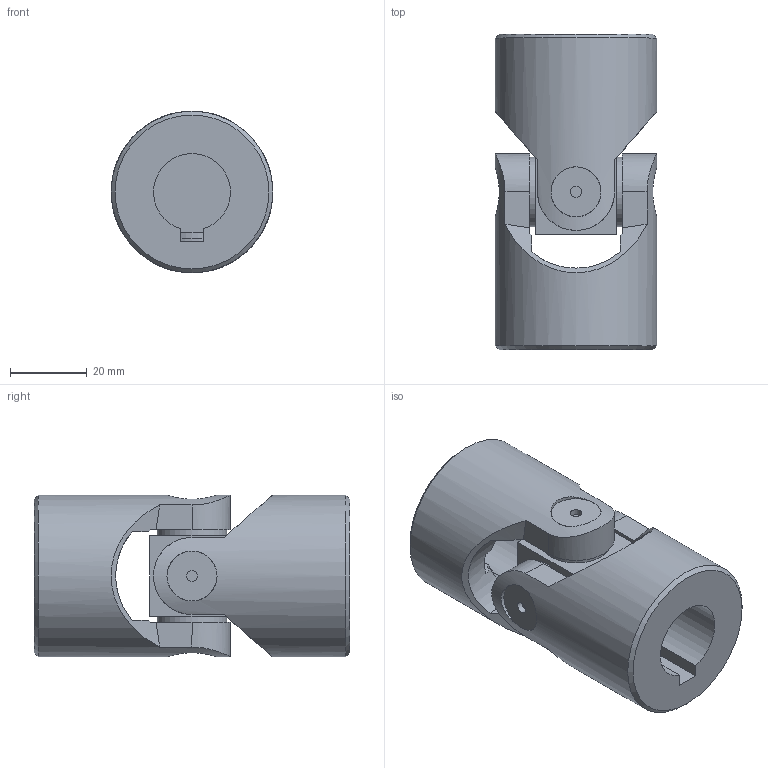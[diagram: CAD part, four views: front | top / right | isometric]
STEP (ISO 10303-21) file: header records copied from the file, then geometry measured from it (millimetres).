
FILE_DESCRIPTION(/* description */ ('EXTENSIBLE TRANSIMISSIONS Series G DIN 808 -2-'),/* implementation_level */ '2;1');
FILE_NAME(/* name */ '\\SRV2016\societa\Stefano\Disegni 3D\Dis. Clienti\0000Catalogo 3D\01Singoli G-GB\SG0S202C.stp',/* time_stamp */ '2021-11-08T17:26:55+01:00',/* author */ ('acquisti'),/* organization */ ('MARIOFERRI'),/* preprocessor_version */ 'ST-DEVELOPER v15.6',/* originating_system */ 'Autodesk Inventor 2015',/* authorisation */ '');
FILE_SCHEMA (('AUTOMOTIVE_DESIGN { 1 0 10303 214 3 1 1 }'));
Length unit declared in the file: millimetre
Products named in the file (3): 3G SFE; 3G MOC; Assieme3
Assembly tree (3 placements, depth 2):
  Assieme3
    3G SFE
    3G MOC  x2
Bounding box: 42 x 82 x 42 mm (x, y, z)
Volume: 76499.6 mm3; surface area: 21885.5 mm2
Topology: 3 solids, 3 shells, 90 faces, 216 edges, 142 vertices
Faces by surface type: plane 42, cylinder 34, cone 12, torus 2
Full cylindrical faces by diameter (mm): 3 x4, 18 x4, 42 x2
Entity records: 1693 total; most frequent: CARTESIAN_POINT 518, DIRECTION 227, ORIENTED_EDGE 222, EDGE_CURVE 111, AXIS2_PLACEMENT_3D 97, VERTEX_POINT 79, EDGE_LOOP 70, FACE_OUTER_BOUND 52
